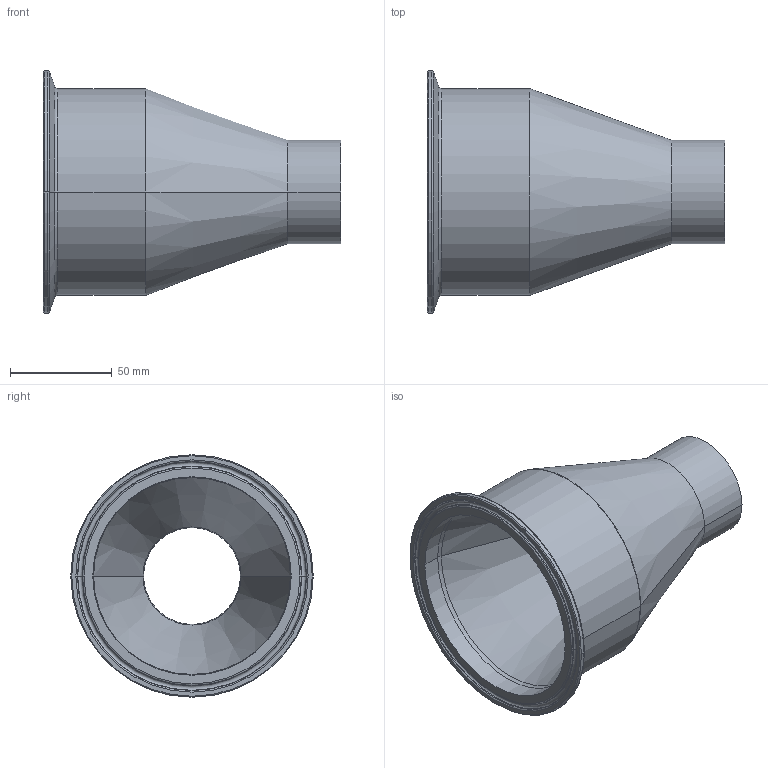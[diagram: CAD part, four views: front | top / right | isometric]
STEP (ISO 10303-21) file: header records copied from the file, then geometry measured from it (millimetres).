
FILE_DESCRIPTION (( 'STEP AP214' ), '1' );
FILE_NAME ('TE31SCW6L4.0x2.0-...STEP', '2016-05-29T12:06:11', ( 'eran' ), ( '' ), 'SwSTEP 2.0', 'SolidWorks 2016', '' );
FILE_SCHEMA (( 'AUTOMOTIVE_DESIGN' ));
Length unit declared in the file: millimetre
Products named in the file (1): TE31SCW6L4.0x2.0-..
Bounding box: 146.06 x 119 x 119 mm (x, y, z)
Volume: 314454.6 mm3; surface area: 74244.8 mm2
Topology: 1 solids, 1 shells, 41 faces, 82 edges, 44 vertices
Faces by surface type: torus 16, cone 12, cylinder 10, plane 3
Entity records: 1098 total; most frequent: DIRECTION 226, CARTESIAN_POINT 168, ORIENTED_EDGE 164, AXIS2_PLACEMENT_3D 102, EDGE_CURVE 82, CIRCLE 60, VERTEX_POINT 44, EDGE_LOOP 44
